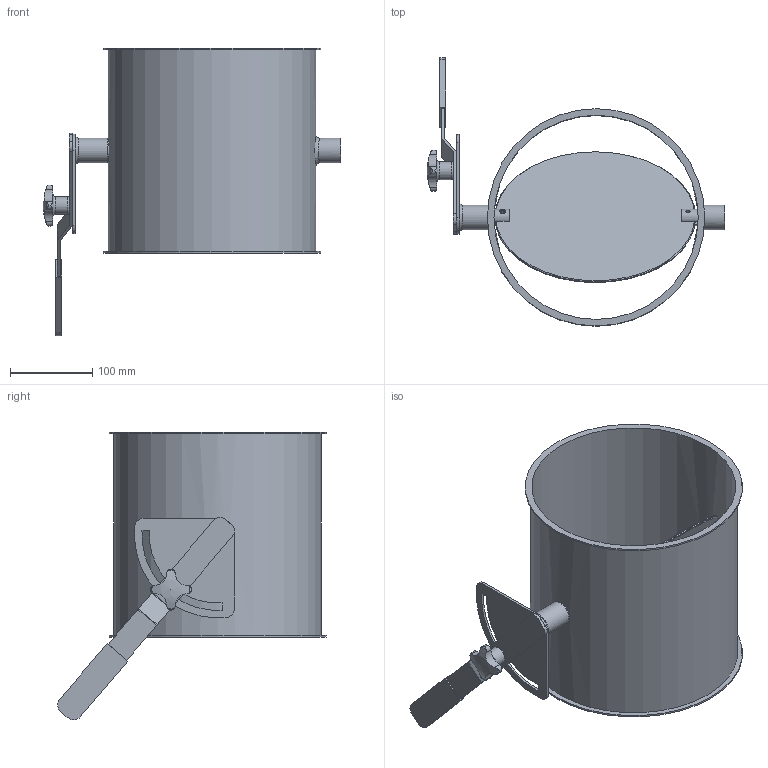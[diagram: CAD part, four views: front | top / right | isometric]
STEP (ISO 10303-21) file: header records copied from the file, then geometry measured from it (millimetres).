
FILE_DESCRIPTION((''),'2;1');
FILE_NAME('U:\Wolfgang\Marcel-3D\fertig\Kapitel 8\2521075.stp','2012-01-13T11:15:08',('iwienholt'),(''),'Autodesk Inventor 2010','Autodesk Inventor 2010','');
FILE_SCHEMA(('AUTOMOTIVE_DESIGN { 1 0 10303 214 1 1 1 1 }'));
Length unit declared in the file: millimetre
Products named in the file (7): 2521075; Bolzen D20; ganter_din_6335-ku-50-m10-k; Griff D20; Scheibe250; Umstellsegment D20; 2521075-1
Assembly tree (6 placements, depth 2):
  2521075
    Bolzen D20
    ganter_din_6335-ku-50-m10-k
    Griff D20
    Scheibe250
    Umstellsegment D20
    2521075-1
Bounding box: 363 x 327.75 x 351.07 mm (x, y, z)
Volume: 716134.1 mm3; surface area: 582188.8 mm2
Topology: 6 solids, 6 shells, 119 faces, 304 edges, 206 vertices
Faces by surface type: plane 51, cylinder 46, torus 9, bspline 7, cone 5, sphere 1
Full cylindrical faces by diameter (mm): 6 x4, 8 x1, 9 x1, 10 x2, 16 x1, 20 x6, 22 x1, 30 x3, 245 x1, 249 x1, 253 x1, 265 x2
Entity records: 4483 total; most frequent: CARTESIAN_POINT 1618, DIRECTION 566, ORIENTED_EDGE 492, EDGE_CURVE 246, AXIS2_PLACEMENT_3D 240, EDGE_LOOP 188, VERTEX_POINT 186, FACE_OUTER_BOUND 119
